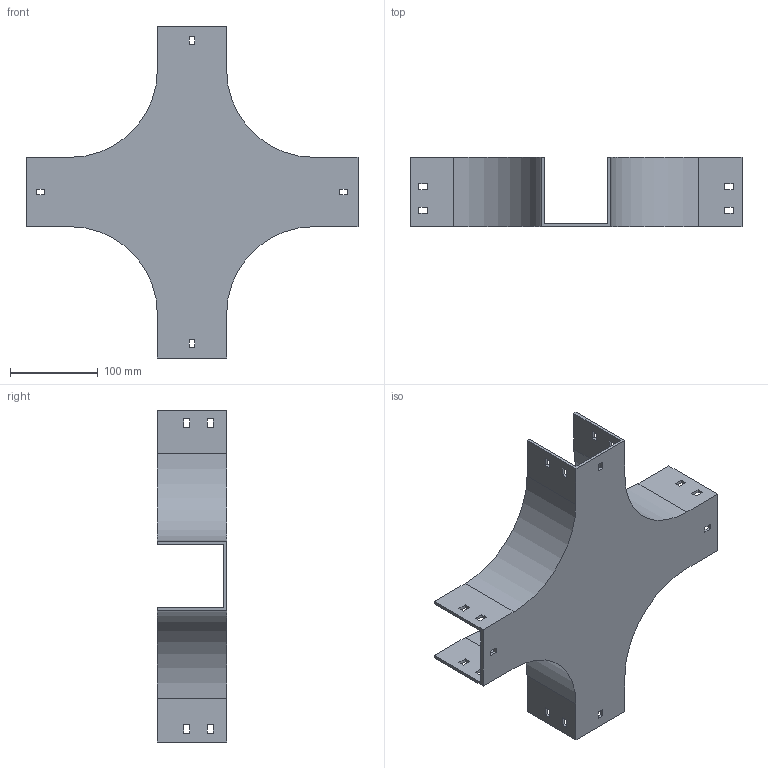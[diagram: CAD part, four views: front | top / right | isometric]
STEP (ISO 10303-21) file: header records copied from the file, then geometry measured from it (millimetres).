
FILE_DESCRIPTION (( 'STEP AP214' ), '1' );
FILE_NAME ('17B1C075.step', '2025-02-21T09:58:03', ( '' ), ( '' ), 'SwSTEP 2.0', 'SolidWorks 2023', '' );
FILE_SCHEMA (( 'AUTOMOTIVE_DESIGN' ));
Length unit declared in the file: millimetre
Products named in the file (1): 17B1C075
Bounding box: 379 x 79 x 379 mm (x, y, z)
Volume: 487687.5 mm3; surface area: 287835.7 mm2
Topology: 1 solids, 1 shells, 114 faces, 336 edges, 224 vertices
Faces by surface type: plane 106, cylinder 8
Entity records: 3839 total; most frequent: CARTESIAN_POINT 675, ORIENTED_EDGE 672, DIRECTION 582, EDGE_CURVE 336, LINE 320, VECTOR 320, VERTEX_POINT 224, EDGE_LOOP 154
